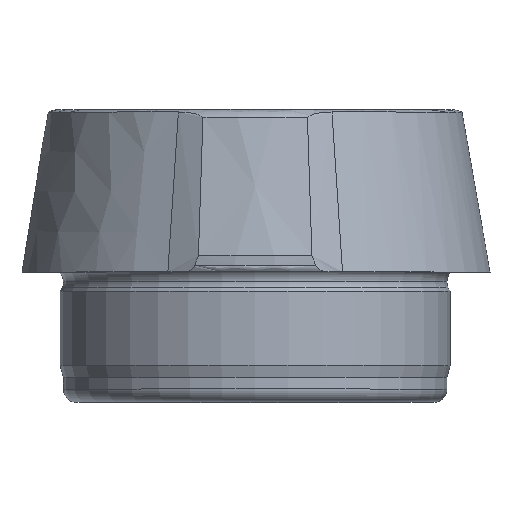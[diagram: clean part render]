
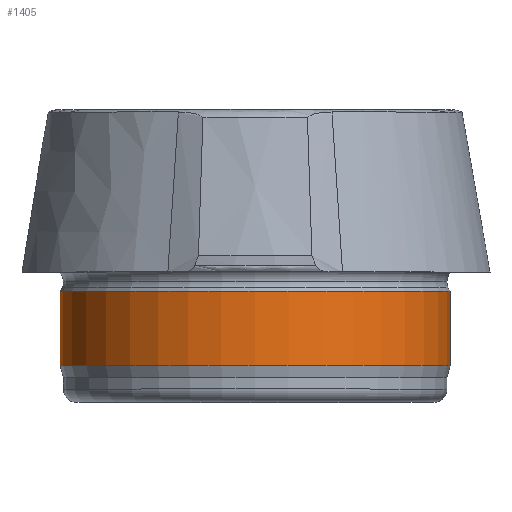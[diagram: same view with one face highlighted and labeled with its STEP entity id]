
A CAD part, top view. The second image highlights one B-rep face of the part: STEP entity #1405.
In plain terms, the highlighted cylindrical face has radius 6 mm (diameter 12 mm), a partial arc.
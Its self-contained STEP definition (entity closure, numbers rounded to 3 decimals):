
#9 = CARTESIAN_POINT ( 'NONE',  ( 6., -100., 0. ) ) ;
#12 = CARTESIAN_POINT ( 'NONE',  ( -6., -100., 0. ) ) ;
#16 = FACE_OUTER_BOUND ( 'NONE', #614, .T. ) ;
#38 = CYLINDRICAL_SURFACE ( 'NONE', #70, 6. ) ;
#59 = VERTEX_POINT ( 'NONE', #285 ) ;
#64 = EDGE_CURVE ( 'NONE', #905, #59, #135, .T. ) ;
#70 = AXIS2_PLACEMENT_3D ( 'NONE', #425, #267, #121 ) ;
#87 = DIRECTION ( 'NONE',  ( -1., 0., 0. ) ) ;
#93 = CIRCLE ( 'NONE', #1129, 6. ) ;
#105 = CARTESIAN_POINT ( 'NONE',  ( -6., 1.127, 0. ) ) ;
#121 = DIRECTION ( 'NONE',  ( -1., 0., 0. ) ) ;
#135 = LINE ( 'NONE', #9, #361 ) ;
#138 = LINE ( 'NONE', #12, #358 ) ;
#167 = ORIENTED_EDGE ( 'NONE', *, *, #993, .T. ) ;
#229 = DIRECTION ( 'NONE',  ( 0., 1., 0. ) ) ;
#250 = EDGE_CURVE ( 'NONE', #501, #59, #1314, .T. ) ;
#267 = DIRECTION ( 'NONE',  ( 0., 1., 0. ) ) ;
#285 = CARTESIAN_POINT ( 'NONE',  ( 6., 3.41, 0. ) ) ;
#358 = VECTOR ( 'NONE', #1296, 1000. ) ;
#361 = VECTOR ( 'NONE', #1292, 1000. ) ;
#392 = CARTESIAN_POINT ( 'NONE',  ( 0., 1.127, 0. ) ) ;
#425 = CARTESIAN_POINT ( 'NONE',  ( 0., -100., 0. ) ) ;
#479 = ORIENTED_EDGE ( 'NONE', *, *, #64, .T. ) ;
#501 = VERTEX_POINT ( 'NONE', #1212 ) ;
#614 = EDGE_LOOP ( 'NONE', ( #167, #479, #810, #1198 ) ) ;
#669 = AXIS2_PLACEMENT_3D ( 'NONE', #1389, #1379, #1380 ) ;
#730 = CARTESIAN_POINT ( 'NONE',  ( 6., 1.127, 0. ) ) ;
#754 = EDGE_CURVE ( 'NONE', #767, #501, #138, .T. ) ;
#767 = VERTEX_POINT ( 'NONE', #105 ) ;
#810 = ORIENTED_EDGE ( 'NONE', *, *, #250, .F. ) ;
#905 = VERTEX_POINT ( 'NONE', #730 ) ;
#993 = EDGE_CURVE ( 'NONE', #767, #905, #93, .T. ) ;
#1129 = AXIS2_PLACEMENT_3D ( 'NONE', #392, #229, #87 ) ;
#1198 = ORIENTED_EDGE ( 'NONE', *, *, #754, .F. ) ;
#1212 = CARTESIAN_POINT ( 'NONE',  ( -6., 3.41, 0. ) ) ;
#1292 = DIRECTION ( 'NONE',  ( 0., 1., 0. ) ) ;
#1296 = DIRECTION ( 'NONE',  ( 0., 1., 0. ) ) ;
#1314 = CIRCLE ( 'NONE', #669, 6. ) ;
#1379 = DIRECTION ( 'NONE',  ( 0., 1., 0. ) ) ;
#1380 = DIRECTION ( 'NONE',  ( 1., 0., 0. ) ) ;
#1389 = CARTESIAN_POINT ( 'NONE',  ( 0., 3.41, 0. ) ) ;
#1405 = ADVANCED_FACE ( 'NONE', ( #16 ), #38, .T. ) ;
